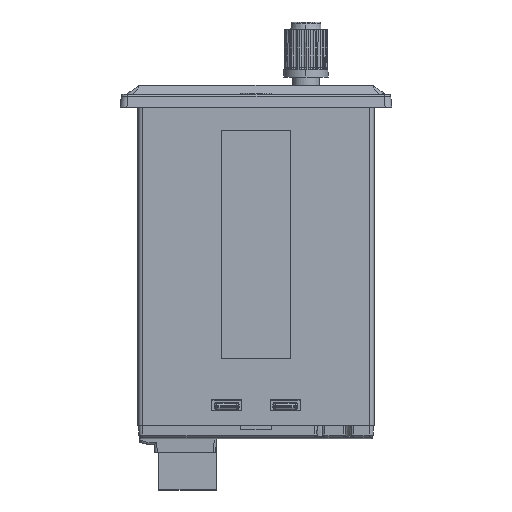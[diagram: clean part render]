
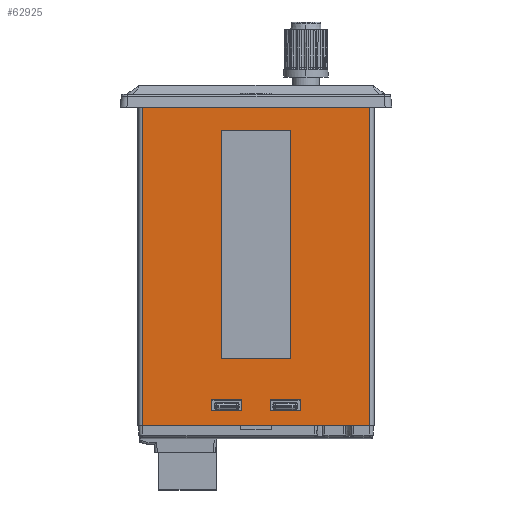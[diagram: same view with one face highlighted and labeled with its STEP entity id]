
A CAD part, front view. The second image highlights one B-rep face of the part: STEP entity #62925.
In plain terms, the highlighted planar face has unit normal (0, -1, 0) as drawn and (-1, 0, 0) by its records, which use the part's own axes.
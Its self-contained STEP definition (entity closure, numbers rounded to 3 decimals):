
#221 = FACE_BOUND ( 'NONE', #72426, .T. ) ;
#322 = VERTEX_POINT ( 'NONE', #16952 ) ;
#862 = VERTEX_POINT ( 'NONE', #34313 ) ;
#1901 = VERTEX_POINT ( 'NONE', #27349 ) ;
#2471 = CARTESIAN_POINT ( 'NONE',  ( -40.15, 3.159, -71.991 ) ) ;
#2477 = CARTESIAN_POINT ( 'NONE',  ( -40.15, 9.888, -0.025 ) ) ;
#2652 = ORIENTED_EDGE ( 'NONE', *, *, #73107, .F. ) ;
#3308 = CARTESIAN_POINT ( 'NONE',  ( -40.15, -7.703, -60.353 ) ) ;
#3626 = VERTEX_POINT ( 'NONE', #49358 ) ;
#4552 = EDGE_CURVE ( 'NONE', #26867, #83510, #9472, .T. ) ;
#4904 = CARTESIAN_POINT ( 'NONE',  ( -40.15, 25.15, -75.2 ) ) ;
#6018 = VECTOR ( 'NONE', #36138, 1000. ) ;
#8198 = CARTESIAN_POINT ( 'NONE',  ( -40.15, -9.843, -69.507 ) ) ;
#8559 = DIRECTION ( 'NONE',  ( 0., 0., 1. ) ) ;
#8853 = ORIENTED_EDGE ( 'NONE', *, *, #13841, .T. ) ;
#9472 = LINE ( 'NONE', #56323, #72106 ) ;
#9663 = CARTESIAN_POINT ( 'NONE',  ( -40.15, -8.95, -71.991 ) ) ;
#11045 = LINE ( 'NONE', #59637, #77957 ) ;
#11516 = ORIENTED_EDGE ( 'NONE', *, *, #26410, .F. ) ;
#12323 = EDGE_CURVE ( 'NONE', #38076, #40096, #21568, .T. ) ;
#12791 = CARTESIAN_POINT ( 'NONE',  ( -40.15, -28.6, -4.7 ) ) ;
#13841 = EDGE_CURVE ( 'NONE', #40346, #862, #28110, .T. ) ;
#14820 = ORIENTED_EDGE ( 'NONE', *, *, #53802, .F. ) ;
#15240 = PLANE ( 'NONE',  #52571 ) ;
#16223 = VECTOR ( 'NONE', #50855, 1000. ) ;
#16952 = CARTESIAN_POINT ( 'NONE',  ( -40.15, 3.157, -69.507 ) ) ;
#17289 = DIRECTION ( 'NONE',  ( 0., -0.001, 1. ) ) ;
#18151 = VECTOR ( 'NONE', #17289, 1000. ) ;
#21568 = LINE ( 'NONE', #12791, #56345 ) ;
#21626 = ORIENTED_EDGE ( 'NONE', *, *, #39431, .T. ) ;
#23078 = VERTEX_POINT ( 'NONE', #71609 ) ;
#23899 = LINE ( 'NONE', #69500, #18151 ) ;
#24228 = ORIENTED_EDGE ( 'NONE', *, *, #38738, .T. ) ;
#24987 = DIRECTION ( 'NONE',  ( 0., -0.001, 1. ) ) ;
#26410 = EDGE_CURVE ( 'NONE', #3626, #862, #28497, .T. ) ;
#26867 = VERTEX_POINT ( 'NONE', #72474 ) ;
#27349 = CARTESIAN_POINT ( 'NONE',  ( -40.15, -25.15, -75.2 ) ) ;
#27673 = DIRECTION ( 'NONE',  ( 0., 0., 1. ) ) ;
#28110 = LINE ( 'NONE', #55105, #69314 ) ;
#28497 = LINE ( 'NONE', #2477, #85287 ) ;
#28520 = EDGE_CURVE ( 'NONE', #1901, #38076, #41369, .T. ) ;
#28874 = LINE ( 'NONE', #30179, #63098 ) ;
#30179 = CARTESIAN_POINT ( 'NONE',  ( -40.15, -28.6, -69.507 ) ) ;
#30561 = VECTOR ( 'NONE', #27673, 1000. ) ;
#31192 = CARTESIAN_POINT ( 'NONE',  ( -40.15, 7.703, -60.353 ) ) ;
#31202 = CARTESIAN_POINT ( 'NONE',  ( -40.15, 25.15, -4.7 ) ) ;
#31402 = LINE ( 'NONE', #60155, #50784 ) ;
#31671 = DIRECTION ( 'NONE',  ( 0., 0., 1. ) ) ;
#33600 = ORIENTED_EDGE ( 'NONE', *, *, #78720, .F. ) ;
#33769 = FACE_BOUND ( 'NONE', #69856, .T. ) ;
#34313 = CARTESIAN_POINT ( 'NONE',  ( -40.15, 9.841, -71.991 ) ) ;
#34369 = EDGE_CURVE ( 'NONE', #322, #3626, #11045, .T. ) ;
#34716 = DIRECTION ( 'NONE',  ( 0., -0.001, -1. ) ) ;
#34751 = CARTESIAN_POINT ( 'NONE',  ( -40.15, -25.15, -4.7 ) ) ;
#35076 = FACE_BOUND ( 'NONE', #41941, .T. ) ;
#35878 = CARTESIAN_POINT ( 'NONE',  ( -40.15, -25.15, -9.847 ) ) ;
#36138 = DIRECTION ( 'NONE',  ( 0., -1., 0. ) ) ;
#36600 = DIRECTION ( 'NONE',  ( 0., 1., 0. ) ) ;
#36870 = VERTEX_POINT ( 'NONE', #84140 ) ;
#38076 = VERTEX_POINT ( 'NONE', #66000 ) ;
#38530 = CARTESIAN_POINT ( 'NONE',  ( -40.15, -3.161, -75.2 ) ) ;
#38659 = LINE ( 'NONE', #86022, #59411 ) ;
#38738 = EDGE_CURVE ( 'NONE', #67749, #78043, #56516, .T. ) ;
#39287 = DIRECTION ( 'NONE',  ( 0., 1., 0. ) ) ;
#39431 = EDGE_CURVE ( 'NONE', #40096, #77458, #65447, .T. ) ;
#39660 = VECTOR ( 'NONE', #82820, 1000. ) ;
#39706 = DIRECTION ( 'NONE',  ( 0., 1., 0. ) ) ;
#40096 = VERTEX_POINT ( 'NONE', #31202 ) ;
#40168 = LINE ( 'NONE', #38530, #83582 ) ;
#40346 = VERTEX_POINT ( 'NONE', #2471 ) ;
#41254 = CARTESIAN_POINT ( 'NONE',  ( -40.15, -28.6, 0. ) ) ;
#41369 = LINE ( 'NONE', #34751, #30561 ) ;
#41566 = LINE ( 'NONE', #74776, #6018 ) ;
#41941 = EDGE_LOOP ( 'NONE', ( #2652, #24228, #33600, #14820 ) ) ;
#42295 = ORIENTED_EDGE ( 'NONE', *, *, #4552, .F. ) ;
#44562 = EDGE_LOOP ( 'NONE', ( #21626, #63406, #86018, #84877 ) ) ;
#47165 = ORIENTED_EDGE ( 'NONE', *, *, #79419, .F. ) ;
#47358 = VECTOR ( 'NONE', #36600, 1000. ) ;
#47490 = VERTEX_POINT ( 'NONE', #3308 ) ;
#49358 = CARTESIAN_POINT ( 'NONE',  ( -40.15, 9.843, -69.507 ) ) ;
#50784 = VECTOR ( 'NONE', #80086, 1000. ) ;
#50855 = DIRECTION ( 'NONE',  ( 0., 0., -1. ) ) ;
#52046 = EDGE_CURVE ( 'NONE', #47490, #36870, #66634, .T. ) ;
#52571 = AXIS2_PLACEMENT_3D ( 'NONE', #41254, #87321, #8559 ) ;
#53802 = EDGE_CURVE ( 'NONE', #83776, #23078, #28874, .T. ) ;
#54333 = DIRECTION ( 'NONE',  ( 0., -0.001, -1. ) ) ;
#55105 = CARTESIAN_POINT ( 'NONE',  ( -40.15, 8.95, -71.991 ) ) ;
#56323 = CARTESIAN_POINT ( 'NONE',  ( -40.15, 7.703, -65.2 ) ) ;
#56345 = VECTOR ( 'NONE', #39706, 1000. ) ;
#56516 = LINE ( 'NONE', #9663, #47358 ) ;
#56762 = ORIENTED_EDGE ( 'NONE', *, *, #34369, .F. ) ;
#57168 = DIRECTION ( 'NONE',  ( 0., 1., 0. ) ) ;
#58791 = EDGE_CURVE ( 'NONE', #40346, #322, #38659, .T. ) ;
#59411 = VECTOR ( 'NONE', #24987, 1000. ) ;
#59637 = CARTESIAN_POINT ( 'NONE',  ( -40.15, -28.6, -69.507 ) ) ;
#60155 = CARTESIAN_POINT ( 'NONE',  ( -40.15, -28.6, -75.2 ) ) ;
#62925 = ADVANCED_FACE ( 'NONE', ( #80672, #35076, #221, #33769 ), #15240, .T. ) ;
#63098 = VECTOR ( 'NONE', #57168, 1000. ) ;
#63406 = ORIENTED_EDGE ( 'NONE', *, *, #74245, .T. ) ;
#65447 = LINE ( 'NONE', #4904, #16223 ) ;
#65846 = ORIENTED_EDGE ( 'NONE', *, *, #75923, .F. ) ;
#66000 = CARTESIAN_POINT ( 'NONE',  ( -40.15, -25.15, -4.7 ) ) ;
#66634 = LINE ( 'NONE', #86101, #74197 ) ;
#66964 = ORIENTED_EDGE ( 'NONE', *, *, #58791, .F. ) ;
#67749 = VERTEX_POINT ( 'NONE', #76526 ) ;
#69314 = VECTOR ( 'NONE', #73702, 1000. ) ;
#69500 = CARTESIAN_POINT ( 'NONE',  ( -40.15, -9.888, 0.012 ) ) ;
#69856 = EDGE_LOOP ( 'NONE', ( #65846, #81975, #47165, #42295 ) ) ;
#71609 = CARTESIAN_POINT ( 'NONE',  ( -40.15, -3.157, -69.507 ) ) ;
#72106 = VECTOR ( 'NONE', #82447, 1000. ) ;
#72426 = EDGE_LOOP ( 'NONE', ( #66964, #8853, #11516, #56762 ) ) ;
#72474 = CARTESIAN_POINT ( 'NONE',  ( -40.15, 7.703, -9.847 ) ) ;
#73107 = EDGE_CURVE ( 'NONE', #67749, #83776, #23899, .T. ) ;
#73702 = DIRECTION ( 'NONE',  ( 0., 1., 0. ) ) ;
#74197 = VECTOR ( 'NONE', #31671, 1000. ) ;
#74245 = EDGE_CURVE ( 'NONE', #77458, #1901, #31402, .T. ) ;
#74776 = CARTESIAN_POINT ( 'NONE',  ( -40.15, -28.6, -60.353 ) ) ;
#75923 = EDGE_CURVE ( 'NONE', #36870, #26867, #82371, .T. ) ;
#76526 = CARTESIAN_POINT ( 'NONE',  ( -40.15, -9.841, -71.991 ) ) ;
#77458 = VERTEX_POINT ( 'NONE', #79144 ) ;
#77957 = VECTOR ( 'NONE', #39287, 1000. ) ;
#78043 = VERTEX_POINT ( 'NONE', #82088 ) ;
#78720 = EDGE_CURVE ( 'NONE', #23078, #78043, #40168, .T. ) ;
#79144 = CARTESIAN_POINT ( 'NONE',  ( -40.15, 25.15, -75.2 ) ) ;
#79419 = EDGE_CURVE ( 'NONE', #83510, #47490, #41566, .T. ) ;
#80086 = DIRECTION ( 'NONE',  ( 0., -1., 0. ) ) ;
#80672 = FACE_OUTER_BOUND ( 'NONE', #44562, .T. ) ;
#81975 = ORIENTED_EDGE ( 'NONE', *, *, #52046, .F. ) ;
#82088 = CARTESIAN_POINT ( 'NONE',  ( -40.15, -3.159, -71.991 ) ) ;
#82371 = LINE ( 'NONE', #35878, #39660 ) ;
#82447 = DIRECTION ( 'NONE',  ( 0., 0., -1. ) ) ;
#82820 = DIRECTION ( 'NONE',  ( 0., 1., 0. ) ) ;
#83510 = VERTEX_POINT ( 'NONE', #31192 ) ;
#83582 = VECTOR ( 'NONE', #54333, 1000. ) ;
#83776 = VERTEX_POINT ( 'NONE', #8198 ) ;
#84140 = CARTESIAN_POINT ( 'NONE',  ( -40.15, -7.703, -9.847 ) ) ;
#84877 = ORIENTED_EDGE ( 'NONE', *, *, #12323, .T. ) ;
#85287 = VECTOR ( 'NONE', #34716, 1000. ) ;
#86018 = ORIENTED_EDGE ( 'NONE', *, *, #28520, .T. ) ;
#86022 = CARTESIAN_POINT ( 'NONE',  ( -40.15, 3.161, -75.2 ) ) ;
#86101 = CARTESIAN_POINT ( 'NONE',  ( -40.15, -7.703, 0. ) ) ;
#87321 = DIRECTION ( 'NONE',  ( -1., 0., 0. ) ) ;
